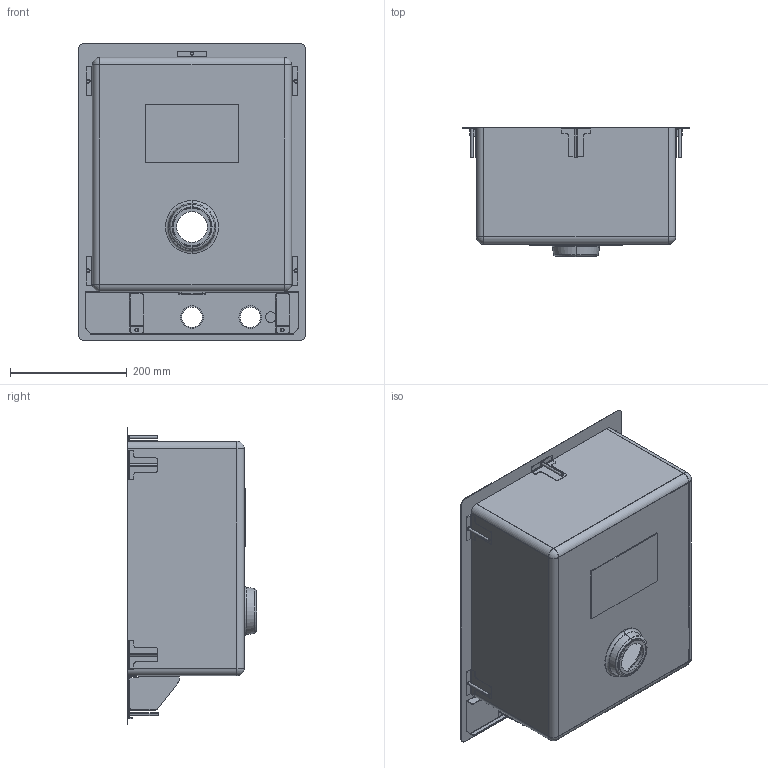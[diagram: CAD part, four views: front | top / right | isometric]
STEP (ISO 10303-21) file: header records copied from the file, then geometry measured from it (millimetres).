
FILE_DESCRIPTION (( 'STEP AP203' ), '1' );
FILE_NAME ('Matra Mix 39x51 1v automatica.STEP', '2021-01-22T08:10:52', ( 'Utente Windows' ), ( '' ), 'SwSTEP 2.0', 'SolidWorks 2020', '' );
FILE_SCHEMA (( 'CONFIG_CONTROL_DESIGN' ));
Length unit declared in the file: millimetre
Products named in the file (14): Matra - piletta integrata_MIX 39x51 1v 2f; Ass. GB17P6; RC17F - D3440_2 fori mix diam.39 mm x automatico ; Ass. RC11SV_DX - RC11; Matra Mix 39x51 1v automatica; GB17P4 - inserto filettato M5; RC11SV_DX - RC11; GB17P1 - base gancio_Piegato; TF11 - smorzante 160x100x1,8
Assembly tree (24 placements, depth 3):
  Matra Mix 39x51 1v automatica
    Matra - piletta integrata_MIX 39x51 1v 2f
    Ass. RC11SV_DX - RC11
      RC11SV_DX - RC11
      GB17P4 - inserto filettato M5
    Ass. GB17P6
      GB17P1 - base gancio_Piegato
      GB17P4 - inserto filettato M5
    Ass. GB17P6
      GB17P1 - base gancio_Piegato
      GB17P4 - inserto filettato M5
    Ass. GB17P6
      GB17P1 - base gancio_Piegato
      GB17P4 - inserto filettato M5
    Ass. GB17P6
      GB17P1 - base gancio_Piegato
      GB17P4 - inserto filettato M5
    TF11 - smorzante 160x100x1,8
    Ass. GB17P6
      GB17P1 - base gancio_Piegato
      GB17P4 - inserto filettato M5
    RC17F - D3440_2 fori mix diam.39 mm x automatico 
    Ass. RC11SV_DX - RC11
      RC11SV_DX - RC11
      GB17P4 - inserto filettato M5
Bounding box: 390 x 221.9 x 510 mm (x, y, z)
Volume: 526486.2 mm3; surface area: 1122240.2 mm2
Topology: 17 solids, 17 shells, 452 faces, 1107 edges, 686 vertices
Faces by surface type: plane 243, cylinder 167, cone 20, torus 8, sphere 8, bspline 6
Entity records: 9667 total; most frequent: CARTESIAN_POINT 1458, DIRECTION 1439, ORIENTED_EDGE 1302, EDGE_CURVE 651, AXIS2_PLACEMENT_3D 521, VERTEX_POINT 406, LINE 397, VECTOR 397
